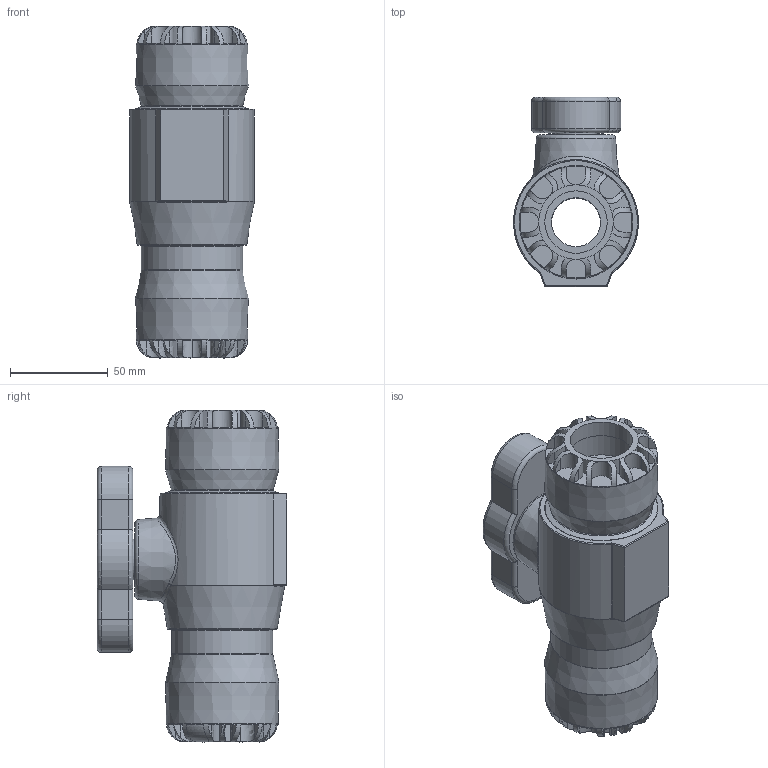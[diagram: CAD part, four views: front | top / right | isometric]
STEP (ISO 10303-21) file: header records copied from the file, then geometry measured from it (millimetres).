
FILE_DESCRIPTION(/* description */ ('PA Ball Valve Series 1 32mm x 32mm'),/* implementation_level */ '2;1');
FILE_NAME(/* name */ 'C:\Dropbox\99-16-3568-Processing\S1\037100\03710S00032_03710SF0032.stp',/* time_stamp */ '2022-04-18T16:19:49+03:00',/* author */ ('Lenora'),/* organization */ (''),/* preprocessor_version */ 'ST-DEVELOPER v17.2',/* originating_system */ 'Autodesk Inventor 2019',/* authorisation */ '');
FILE_SCHEMA (('AUTOMOTIVE_DESIGN { 1 0 10303 214 3 1 1 }'));
Length unit declared in the file: millimetre
Products named in the file (1): 03710S00032_03710SF0032
Bounding box: 63.98 x 97 x 170 mm (x, y, z)
Volume: 429554.6 mm3; surface area: 67652.1 mm2
Topology: 2 solids, 3 shells, 272 faces, 717 edges, 455 vertices
Faces by surface type: plane 121, cylinder 72, bspline 46, torus 26, cone 7
Full cylindrical faces by diameter (mm): 21.25 x1, 25 x1, 32 x2, 34 x2, 51.84 x1
Entity records: 11455 total; most frequent: CARTESIAN_POINT 5032, ORIENTED_EDGE 1426, DIRECTION 1236, EDGE_CURVE 713, AXIS2_PLACEMENT_3D 499, VERTEX_POINT 453, EDGE_LOOP 280, FACE_OUTER_BOUND 270
